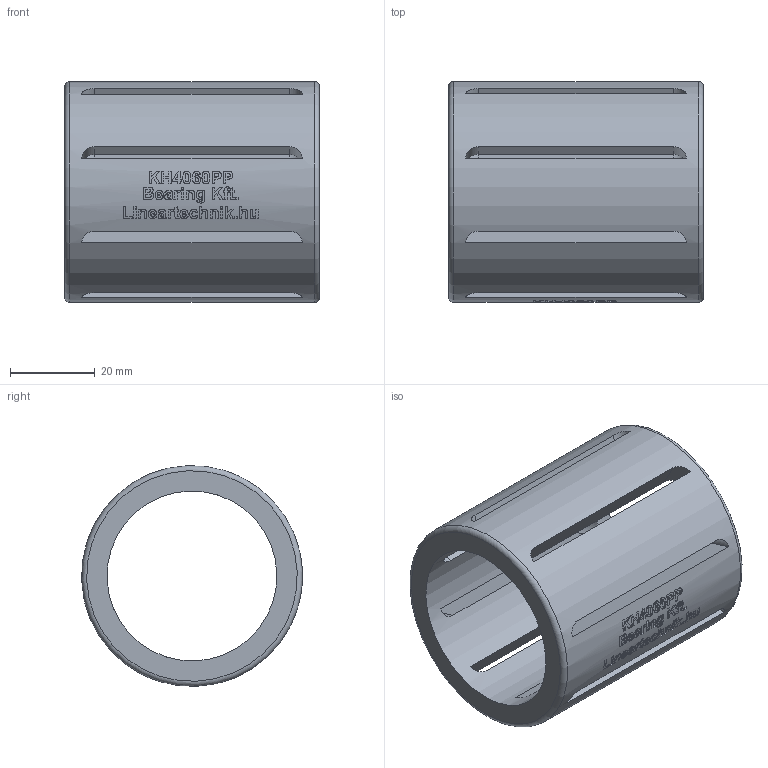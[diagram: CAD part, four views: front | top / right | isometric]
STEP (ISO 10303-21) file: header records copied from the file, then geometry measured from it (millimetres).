
FILE_DESCRIPTION(/* description */ (''),/* implementation_level */ '2;1');
FILE_NAME(/* name */ 'KH4060PP',/* time_stamp */ '2019-07-11T11:31:44+02:00',/* author */ ('VĂ©gh MĂˇtĂ©'),/* organization */ ('Bearing Kft'),/* preprocessor_version */ 'ST-DEVELOPER v16.7',/* originating_system */ 'DEX',/* authorisation */ $);
FILE_SCHEMA (('AUTOMOTIVE_DESIGN {1 0 10303 214 3 1 1}'));
Length unit declared in the file: millimetre
Products named in the file (1): KH4060PP
Bounding box: 60 x 51.98 x 51.95 mm (x, y, z)
Volume: 44592.2 mm3; surface area: 21681.2 mm2
Topology: 1 solids, 1 shells, 354 faces, 901 edges, 599 vertices
Faces by surface type: plane 185, bspline 97, cylinder 70, torus 2
Full cylindrical faces by diameter (mm): 40 x1, 52 x1
Entity records: 18095 total; most frequent: CARTESIAN_POINT 10067, ORIENTED_EDGE 1778, DIRECTION 1342, EDGE_CURVE 889, VERTEX_POINT 599, LINE 500, VECTOR 500, EDGE_LOOP 434
